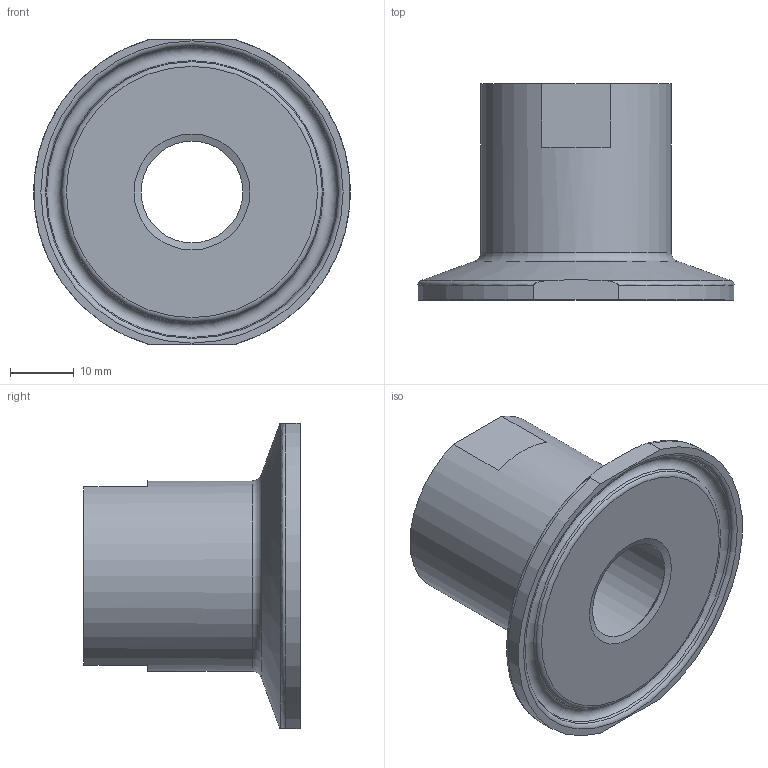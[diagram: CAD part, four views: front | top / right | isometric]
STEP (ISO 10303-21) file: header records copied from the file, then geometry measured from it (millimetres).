
FILE_DESCRIPTION( ( 'STEP AP203' ), '1' );
FILE_NAME( 'p:/temp/worker_686/temp/exporttempdir_3476_499_JDMWf/format_1/E33401.stp', '2020-12-02T08:44:28', ( 'License CC BY-ND 4.0' ), ( 'CADENAS' ), ' ', 'PARTsolutions', ' ' );
FILE_SCHEMA( ( 'CONFIG_CONTROL_DESIGN' ) );
Length unit declared in the file: millimetre
Products named in the file (1): _E33401
Bounding box: 49.75 x 34 x 48 mm (x, y, z)
Volume: 19268.5 mm3; surface area: 8638.4 mm2
Topology: 1 solids, 1 shells, 25 faces, 59 edges, 37 vertices
Faces by surface type: plane 9, torus 6, cone 6, cylinder 4
Full cylindrical faces by diameter (mm): 19 x1, 30 x1
Entity records: 718 total; most frequent: CARTESIAN_POINT 160, DIRECTION 112, ORIENTED_EDGE 86, AXIS2_PLACEMENT_3D 49, EDGE_CURVE 43, EDGE_LOOP 40, VERTEX_POINT 33, FACE_OUTER_BOUND 31
